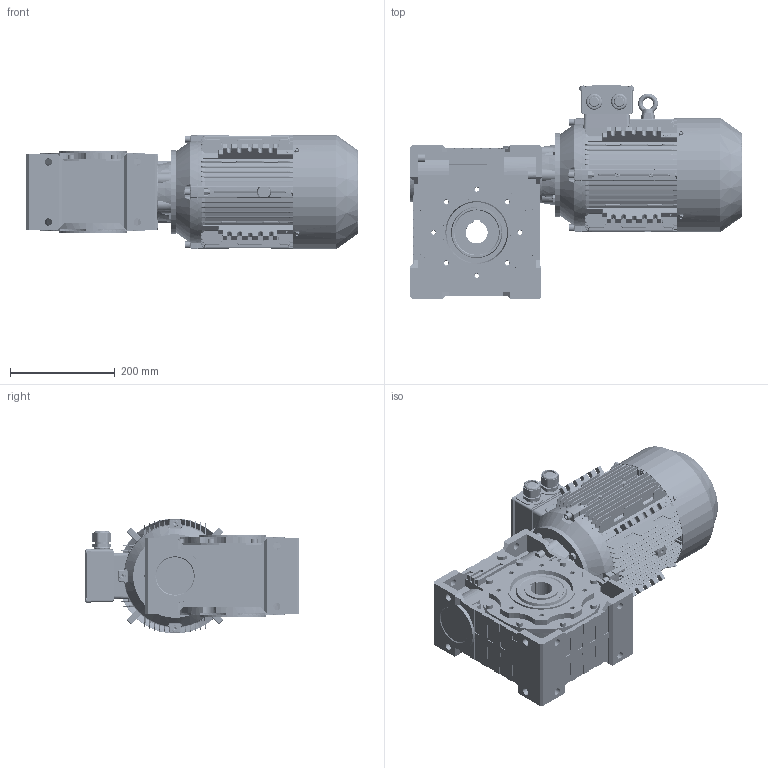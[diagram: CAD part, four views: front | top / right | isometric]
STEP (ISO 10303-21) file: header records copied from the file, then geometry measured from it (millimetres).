
FILE_DESCRIPTION (( 'STEP AP203' ), '1' );
FILE_NAME ('CMRV110_MX3-112M.STEP', '2022-01-17T10:21:27', ( '' ), ( '' ), 'SwSTEP 2.0', 'SolidWorks 2021', '' );
FILE_SCHEMA (( 'CONFIG_CONTROL_DESIGN' ));
Length unit declared in the file: millimetre
Products named in the file (25): cross recessed pan head screws gb_GB_CROSS_SCREWS_TYPE1 M5X12-12  H type-N_3^MX3-112_B14_CMRV110_MX3-112M(2)_CMRV110_MX3-112M; plain parallel keys_GB_CONNECTING_PIECE_KEYS_CSK 8X50_3^MX3-112_B14_CMRV110_MX3-112M(2)_CMRV110_MX3-112M; DMX-IE3 112M4 casing_3^MX3-112_B14_CMRV110_MX3-112M(2)_CMRV110_MX3-112M; CMRV110_MX3-112M(2)^CMRV110_MX3-112M; hexagon nuts grade c gb_GB_FASTENER_NUT_SNC1 M8-N_3^MX3-112_B14_CMRV110_MX3-112M(2)_CMRV110_MX3-112M; DMX-IE3 oil seal_3^MX3-112_B14_CMRV110_MX3-112M(2)_CMRV110_MX3-112M; DMX-IE3 112 shield_3^MX3-112_B14_CMRV110_MX3-112M(2)_CMRV110_MX3-112M; hexagon socket head cap screws gb_GB_FASTENER_SCREWS_HSHCS M8X40-N_3^MX3-112_B14_CMRV110_MX3-112M(2)_CMRV110_MX3-112M; DMX-IE3 112terminal box base_3^MX3-112_B14_CMRV110_MX3-112M(2)_CMRV110_MX3-112M; deep groove ball bearings gb_Rolling bearings 6206 GB 276-94_3^MX3-112_B14_CMRV110_MX3-112M(2)_CMRV110_MX3-112M; eyebolts gb_GB_FASTENER_SCREWS_FRS M8-N_3^MX3-112_B14_CMRV110_MX3-112M(2)_CMRV110_MX3-112M; spring lock washers--normal type gb_GB_FASTENER_WASHER_SW 8_3^MX3-112_B14_CMRV110_MX3-112M(2)_CMRV110_MX3-112M; DMX-IE3 112   fan cover_3^MX3-112_B14_CMRV110_MX3-112M(2)_CMRV110_MX3-112M; DMX-IE3 112 fan_3^MX3-112_B14_CMRV110_MX3-112M(2)_CMRV110_MX3-112M; CMRV110_MX3-112M; hexagon flange head tapping screws gb_GB_SQUARE_AND_HEXAGON_TYPE137 ST4.8X9.5 C-N_3^MX3-112_B14_CMRV110_MX3-112M(2)_CMRV110_MX3-112M; DMX-IE3 112 Flange^MX3-112_B14_CMRV110_MX3-112M(2)_CMRV110_MX3-112M; DMX-IE3 112  cable glands_3^MX3-112_B14_CMRV110_MX3-112M(2)_CMRV110_MX3-112M; DMX-IE3 112terminal box cover_3^MX3-112_B14_CMRV110_MX3-112M(2)_CMRV110_MX3-112M; MX3-112_B14^CMRV110_MX3-112M(2)_CMRV110_MX3-112M; deep groove ball bearings gb_Rolling bearings 6306 GB 276-94_3^MX3-112_B14_CMRV110_MX3-112M(2)_CMRV110_MX3-112M; DMX-IE3 112 shaft_3^MX3-112_B14_CMRV110_MX3-112M(2)_CMRV110_MX3-112M; DMX-IE3 112M4  oil seal_3^MX3-112_B14_CMRV110_MX3-112M(2)_CMRV110_MX3-112M; circlips for shaft--type a large gb_GB_CONNECTING_PIECE_RING_RRA 28_3^MX3-112_B14_CMRV110_MX3-112M(2)_CMRV110_MX3-112M; CMRV110_B10
Assembly tree (53 placements, depth 4):
  CMRV110_MX3-112M
    CMRV110_MX3-112M(2)^CMRV110_MX3-112M
      MX3-112_B14^CMRV110_MX3-112M(2)_CMRV110_MX3-112M
        DMX-IE3 112M4 casing_3^MX3-112_B14_CMRV110_MX3-112M(2)_CMRV110_MX3-112M
        DMX-IE3 112 shaft_3^MX3-112_B14_CMRV110_MX3-112M(2)_CMRV110_MX3-112M
        DMX-IE3 112 shield_3^MX3-112_B14_CMRV110_MX3-112M(2)_CMRV110_MX3-112M
        deep groove ball bearings gb_Rolling bearings 6306 GB 276-94_3^MX3-112_B14_CMRV110_MX3-112M(2)_CMRV110_MX3-112M
        deep groove ball bearings gb_Rolling bearings 6206 GB 276-94_3^MX3-112_B14_CMRV110_MX3-112M(2)_CMRV110_MX3-112M
        DMX-IE3 112M4  oil seal_3^MX3-112_B14_CMRV110_MX3-112M(2)_CMRV110_MX3-112M
        DMX-IE3 oil seal_3^MX3-112_B14_CMRV110_MX3-112M(2)_CMRV110_MX3-112M
        DMX-IE3 112 fan_3^MX3-112_B14_CMRV110_MX3-112M(2)_CMRV110_MX3-112M
        circlips for shaft--type a large gb_GB_CONNECTING_PIECE_RING_RRA 28_3^MX3-112_B14_CMRV110_MX3-112M(2)_CMRV110_MX3-112M
        spring lock washers--normal type gb_GB_FASTENER_WASHER_SW 8_3^MX3-112_B14_CMRV110_MX3-112M(2)_CMRV110_MX3-112M  x8
        hexagon nuts grade c gb_GB_FASTENER_NUT_SNC1 M8-N_3^MX3-112_B14_CMRV110_MX3-112M(2)_CMRV110_MX3-112M  x8
        hexagon socket head cap screws gb_GB_FASTENER_SCREWS_HSHCS M8X40-N_3^MX3-112_B14_CMRV110_MX3-112M(2)_CMRV110_MX3-112M  x8
        DMX-IE3 112   fan cover_3^MX3-112_B14_CMRV110_MX3-112M(2)_CMRV110_MX3-112M
        plain parallel keys_GB_CONNECTING_PIECE_KEYS_CSK 8X50_3^MX3-112_B14_CMRV110_MX3-112M(2)_CMRV110_MX3-112M
        DMX-IE3 112terminal box base_3^MX3-112_B14_CMRV110_MX3-112M(2)_CMRV110_MX3-112M
        DMX-IE3 112terminal box cover_3^MX3-112_B14_CMRV110_MX3-112M(2)_CMRV110_MX3-112M
        cross recessed pan head screws gb_GB_CROSS_SCREWS_TYPE1 M5X12-12  H type-N_3^MX3-112_B14_CMRV110_MX3-112M(2)_CMRV110_MX3-112M  x4
        eyebolts gb_GB_FASTENER_SCREWS_FRS M8-N_3^MX3-112_B14_CMRV110_MX3-112M(2)_CMRV110_MX3-112M
        hexagon flange head tapping screws gb_GB_SQUARE_AND_HEXAGON_TYPE137 ST4.8X9.5 C-N_3^MX3-112_B14_CMRV110_MX3-112M(2)_CMRV110_MX3-112M  x5
        DMX-IE3 112  cable glands_3^MX3-112_B14_CMRV110_MX3-112M(2)_CMRV110_MX3-112M  x2
        DMX-IE3 112 Flange^MX3-112_B14_CMRV110_MX3-112M(2)_CMRV110_MX3-112M
    CMRV110_B10
Bounding box: 634.75 x 410.1 x 219.16 mm (x, y, z)
Volume: 1462982.6 mm3; surface area: 1846756.7 mm2
Topology: 50 solids, 65 shells, 7238 faces, 18986 edges, 11772 vertices
Faces by surface type: plane 2730, cylinder 1986, bspline 1619, cone 626, sphere 166, torus 111
Entity records: 319314 total; most frequent: CARTESIAN_POINT 180212, ORIENTED_EDGE 34458, DIRECTION 18660, EDGE_CURVE 17322, B_SPLINE_CURVE_WITH_KNOTS 10864, VERTEX_POINT 10819, AXIS2_PLACEMENT_3D 7468, EDGE_LOOP 7207
